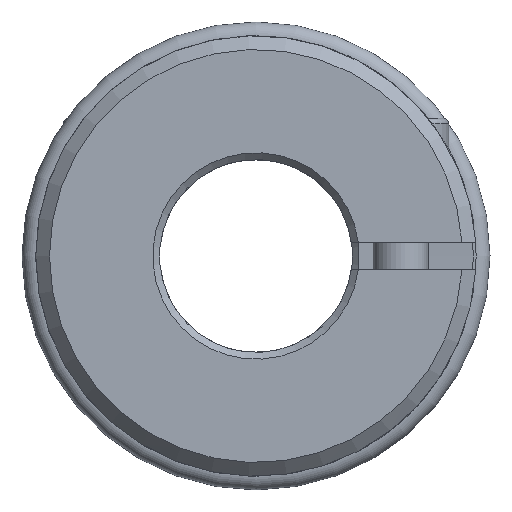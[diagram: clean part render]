
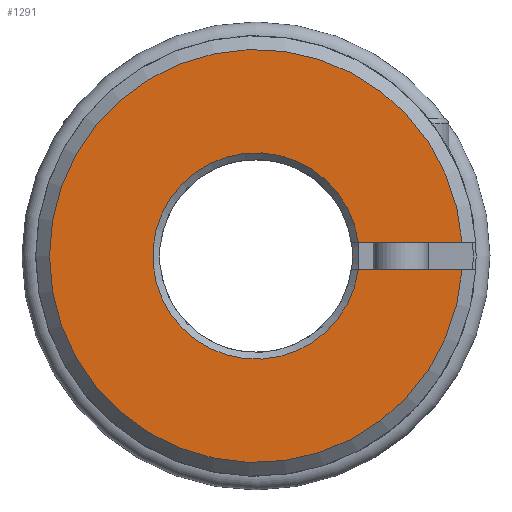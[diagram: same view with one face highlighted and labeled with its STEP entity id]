
A CAD part, left-side view. The second image highlights one B-rep face of the part: STEP entity #1291.
In plain terms, the highlighted planar face has unit normal (-1, 0, 0) as drawn and (1, 0, 0) by its records, which use the part's own axes.
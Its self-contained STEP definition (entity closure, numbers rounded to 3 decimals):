
#21=LINE('',#2314,#55);
#22=LINE('',#2318,#56);
#55=VECTOR('',#1862,1000.);
#56=VECTOR('',#1865,1000.);
#182=PLANE('',#1506);
#360=ORIENTED_EDGE('',*,*,#575,.T.);
#361=ORIENTED_EDGE('',*,*,#576,.T.);
#362=ORIENTED_EDGE('',*,*,#577,.T.);
#363=ORIENTED_EDGE('',*,*,#572,.F.);
#572=EDGE_CURVE('',#707,#708,#816,.T.);
#575=EDGE_CURVE('',#707,#709,#21,.T.);
#576=EDGE_CURVE('',#709,#710,#817,.F.);
#577=EDGE_CURVE('',#710,#708,#22,.T.);
#707=VERTEX_POINT('',#2303);
#708=VERTEX_POINT('',#2304);
#709=VERTEX_POINT('',#2315);
#710=VERTEX_POINT('',#2317);
#816=CIRCLE('',#1505,15.);
#817=CIRCLE('',#1507,7.5);
#967=EDGE_LOOP('',(#360,#361,#362,#363));
#1145=FACE_BOUND('',#967,.T.);
#1291=ADVANCED_FACE('',(#1145),#182,.T.);
#1505=AXIS2_PLACEMENT_3D('',#2302,#1858,#1859);
#1506=AXIS2_PLACEMENT_3D('',#2313,#1860,#1861);
#1507=AXIS2_PLACEMENT_3D('',#2316,#1863,#1864);
#1858=DIRECTION('',(-1.,0.,0.));
#1859=DIRECTION('',(0.,0.,1.));
#1860=DIRECTION('',(1.,0.,0.));
#1861=DIRECTION('',(0.,0.,-1.));
#1862=DIRECTION('',(0.,-1.,0.));
#1863=DIRECTION('',(1.,0.,0.));
#1864=DIRECTION('',(0.,0.,-1.));
#1865=DIRECTION('',(0.,1.,0.));
#2302=CARTESIAN_POINT('',(11.,0.,0.));
#2303=CARTESIAN_POINT('',(11.,14.967,-1.));
#2304=CARTESIAN_POINT('',(11.,14.967,1.));
#2313=CARTESIAN_POINT('',(11.,0.,7.));
#2314=CARTESIAN_POINT('',(11.,18.,-1.));
#2315=CARTESIAN_POINT('',(11.,7.433,-1.));
#2316=CARTESIAN_POINT('',(11.,0.,0.));
#2317=CARTESIAN_POINT('',(11.,7.433,1.));
#2318=CARTESIAN_POINT('',(11.,-5.,1.));
